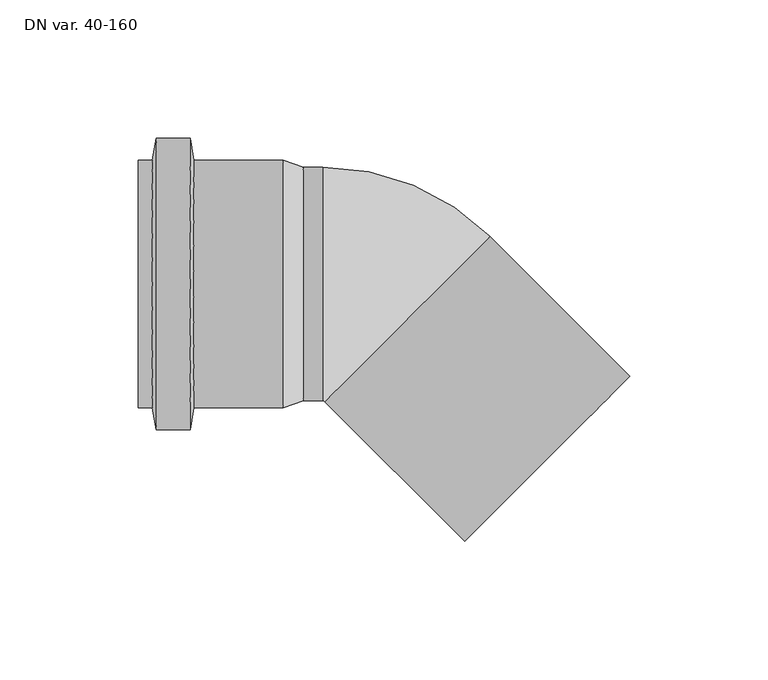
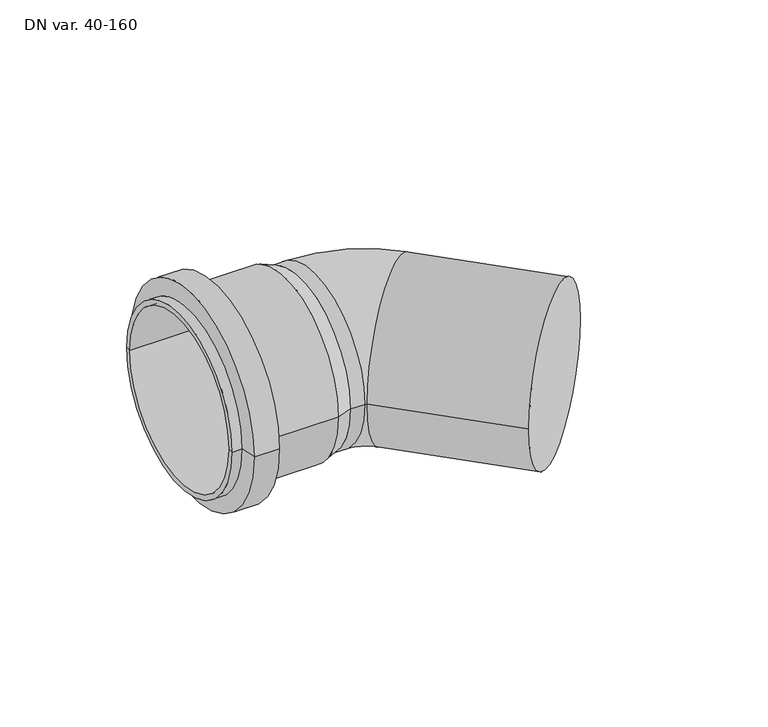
"""IFC4 building model written with IfcOpenShell, lengths in millimetres: pipe fitting geometry, PIF_Master 3+ bend-sh_Pipelife : DN var. 40-160."""

from ifc_helpers import new_model, si_unit, point, frame, origin, place, context, project, spatial, polyline, circle_curve, ellipse_curve, trimmed, source, transform, mapped, element, save
from ifc_brep_helpers import plane_surface, cylinder_surface, revolved_surface, advanced_brep


def dn_var_40_160_b9cddc0a(model_context):
    return source(origin(), model_context, "Body", "AdvancedBrep", [
        advanced_brep(
        [(-25.0, 42.2, 0.0), (-84.6, 42.2, 0.0), (-84.6, -42.2, 0.0), (-25.0, -42.2, 0.0), (-32.1434413, 44.8, 0.0), (-32.1434413, -44.8, 0.0), (-64.5, 44.8, 0.0), (-64.5, -44.8, 0.0), (-65.888575, 52.675, 0.0), (-65.888575, -52.675, 0.0), (-78.111425, 52.675, 0.0), (-78.111425, -52.675, 0.0), (-79.5, 44.8, 0.0), (-79.5, -44.8, 0.0), (-84.6, 44.8, 0.0), (-84.6, -44.8, 0.0)],
        [
            (0, 1),
            (1, 2, circle_curve(frame((-84.6, 0.0, 0.0), z_axis=(-1.0, 0.0, 0.0), x_axis=(0.0, -1.0, 0.0)), 42.2)),
            (2, 3),
            (3, 0, circle_curve(frame((-25.0, 0.0, 0.0), z_axis=(1.0, 0.0, 0.0), x_axis=(0.0, -1.0, 0.0)), 42.2)),
            (2, 1, circle_curve(frame((-84.6, 0.0, 0.0), z_axis=(-1.0, 0.0, 0.0), x_axis=(0.0, -1.0, 0.0)), 42.2)),
            (0, 3, circle_curve(frame((-25.0, 0.0, 0.0), z_axis=(1.0, 0.0, 0.0), x_axis=(0.0, -1.0, 0.0)), 42.2)),
            (4, 0),
            (3, 5),
            (5, 4, circle_curve(frame((-32.1434413, 0.0, 0.0), z_axis=(1.0, 0.0, 0.0), x_axis=(0.0, -1.0, 0.0)), 44.8)),
            (4, 5, circle_curve(frame((-32.1434413, 0.0, 0.0), z_axis=(1.0, 0.0, 0.0), x_axis=(0.0, -1.0, 0.0)), 44.8)),
            (6, 4),
            (5, 7),
            (7, 6, circle_curve(frame((-64.5, 0.0, 0.0), z_axis=(1.0, 0.0, 0.0), x_axis=(0.0, -1.0, 0.0)), 44.8)),
            (6, 7, circle_curve(frame((-64.5, 0.0, 0.0), z_axis=(1.0, 0.0, 0.0), x_axis=(0.0, -1.0, 0.0)), 44.8)),
            (8, 6),
            (7, 9),
            (9, 8, circle_curve(frame((-65.888575, 0.0, 0.0), z_axis=(1.0, 0.0, 0.0), x_axis=(0.0, -1.0, 0.0)), 52.675)),
            (8, 9, circle_curve(frame((-65.888575, 0.0, 0.0), z_axis=(1.0, 0.0, 0.0), x_axis=(0.0, -1.0, 0.0)), 52.675)),
            (10, 8),
            (9, 11),
            (11, 10, circle_curve(frame((-78.111425, 0.0, 0.0), z_axis=(1.0, 0.0, 0.0), x_axis=(0.0, -1.0, 0.0)), 52.675)),
            (10, 11, circle_curve(frame((-78.111425, 0.0, 0.0), z_axis=(1.0, 0.0, 0.0), x_axis=(0.0, -1.0, 0.0)), 52.675)),
            (12, 10),
            (11, 13),
            (13, 12, circle_curve(frame((-79.5, 0.0, 0.0), z_axis=(1.0, 0.0, 0.0), x_axis=(0.0, -1.0, 0.0)), 44.8)),
            (12, 13, circle_curve(frame((-79.5, 0.0, 0.0), z_axis=(1.0, 0.0, 0.0), x_axis=(0.0, -1.0, 0.0)), 44.8)),
            (14, 12),
            (13, 15),
            (15, 14, circle_curve(frame((-84.6, 0.0, 0.0), z_axis=(1.0, 0.0, 0.0), x_axis=(0.0, -1.0, 0.0)), 44.8)),
            (14, 15, circle_curve(frame((-84.6, 0.0, 0.0), z_axis=(1.0, 0.0, 0.0), x_axis=(0.0, -1.0, 0.0)), 44.8)),
            (1, 14),
            (15, 2),
        ],
        [
            revolved_surface(polyline([(-84.6, -42.2, 0.0), (-25.0, -42.2, 0.0)]), (-94.6, 0.0, 0.0), (-1.0, 0.0, 0.0)),
            revolved_surface(polyline([(-25.0, -42.2, 0.0), (-32.1434413, -44.8, 0.0)]), (-94.6, 0.0, 0.0), (-1.0, 0.0, 0.0)),
            cylinder_surface(frame((-94.6, 0.0, 0.0), z_axis=(-1.0, 0.0, 0.0), x_axis=(0.0, -1.0, 0.0)), 44.8),
            revolved_surface(polyline([(-64.5, -44.8, 0.0), (-65.888575, -52.675, 0.0)]), (-94.6, 0.0, 0.0), (-1.0, 0.0, 0.0)),
            cylinder_surface(frame((-94.6, 0.0, 0.0), z_axis=(-1.0, 0.0, 0.0), x_axis=(0.0, -1.0, 0.0)), 52.675),
            revolved_surface(polyline([(-78.111425, -52.675, 0.0), (-79.5, -44.8, 0.0)]), (-94.6, 0.0, 0.0), (-1.0, 0.0, 0.0)),
            plane_surface(frame((-84.6, 0.0, 0.0), z_axis=(-1.0, 0.0, 0.0), x_axis=(0.0, -1.0, 0.0))),
        ],
        [
            (0, [[1, 2, 3, 4]]),
            (0, [[-3, 5, -1, 6]]),
            (1, [[7, -4, 8, 9]]),
            (1, [[-8, -6, -7, 10]]),
            (2, [[11, -9, 12, 13]]),
            (2, [[-12, -10, -11, 14]]),
            (3, [[15, -13, 16, 17]]),
            (3, [[-16, -14, -15, 18]]),
            (4, [[19, -17, 20, 21]]),
            (4, [[-20, -18, -19, 22]]),
            (5, [[23, -21, 24, 25]]),
            (5, [[-24, -22, -23, 26]]),
            (2, [[27, -25, 28, 29]]),
            (2, [[-28, -26, -27, 30]]),
            (6, [[31, -29, 32, -2]]),
            (6, [[-32, -30, -31, -5]]),
        ],
    ),
        advanced_brep(
        [(-17.8940259, 42.2, 0.0), (-25.0, 42.2, 0.0), (-25.0, -42.2, 0.0), (-17.8940259, -42.2, 0.0), (-17.1869191, -42.4928932, 0.0), (42.4928932, 17.1869191, 0.0), (33.3754401, -93.0552524, 0.0), (63.2153462, -63.2153462, -42.2), (93.0552524, -33.3754401, 0.0), (63.2153462, -63.2153462, 42.2)],
        [
            (0, 1),
            (1, 2, circle_curve(frame((-25.0, 0.0, 0.0), z_axis=(1.0, 0.0, 0.0), x_axis=(0.0, -1.0, 0.0)), 42.2)),
            (2, 3),
            (3, 0, circle_curve(frame((-17.8940259, 0.0, 0.0), z_axis=(-1.0, 0.0, 0.0), x_axis=(0.0, -1.0, 0.0)), 42.2)),
            (2, 1, circle_curve(frame((-25.0, 0.0, 0.0), z_axis=(1.0, 0.0, 0.0), x_axis=(0.0, -1.0, 0.0)), 42.2)),
            (0, 3, circle_curve(frame((-17.8940259, 0.0, 0.0), z_axis=(-1.0, 0.0, 0.0), x_axis=(0.0, -1.0, 0.0)), 42.2)),
            (3, 4, circle_curve(frame((-17.8940259, -43.2, 0.0), z_axis=(0.0, 0.0, -1.0), x_axis=(0.0, 1.0, 0.0)), 1.0)),
            (4, 5, circle_curve(frame((12.6529871, -12.6529871, 0.0), z_axis=(-0.7071067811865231, 0.707106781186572, 0.0), x_axis=(-0.707106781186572, -0.7071067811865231, 0.0)), 42.2)),
            (5, 0, circle_curve(frame((-17.8940259, -43.2, 0.0), z_axis=(0.0, 0.0, 1.0), x_axis=(0.0, 1.0, 0.0)), 85.4)),
            (5, 4, circle_curve(frame((12.6529871, -12.6529871, 0.0), z_axis=(-0.7071067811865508, 0.7071067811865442, 0.0), x_axis=(-0.7071067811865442, -0.7071067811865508, 0.0)), 42.2)),
            (6, 7, circle_curve(frame((63.2153462, -63.2153462, 0.0), z_axis=(0.707106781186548, -0.707106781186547, 0.0), x_axis=(-0.707106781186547, -0.707106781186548, 0.0)), 42.2)),
            (7, 8, circle_curve(frame((63.2153462, -63.2153462, 0.0), z_axis=(0.707106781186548, -0.707106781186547, 0.0), x_axis=(-0.707106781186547, -0.707106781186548, 0.0)), 42.2)),
            (8, 9, circle_curve(frame((63.2153462, -63.2153462, 0.0), z_axis=(0.707106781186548, -0.707106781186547, 0.0), x_axis=(-0.707106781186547, -0.707106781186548, 0.0)), 42.2)),
            (9, 6, circle_curve(frame((63.2153462, -63.2153462, 0.0), z_axis=(0.707106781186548, -0.707106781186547, 0.0), x_axis=(-0.707106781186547, -0.707106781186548, 0.0)), 42.2)),
            (4, 6),
            (8, 5),
        ],
        [
            cylinder_surface(frame((-84.6, 0.0, 0.0), z_axis=(-1.0, 0.0, 0.0), x_axis=(0.0, -1.0, 0.0)), 42.2),
            revolved_surface(trimmed(ellipse_curve(frame((-17.8940259, 0.0, 0.0), z_axis=(1.0, 0.0, 0.0), x_axis=(0.0, -1.0, 0.0)), 42.2, 42.2), [point((-17.8940259, 42.2, 0.0))], [point((-17.8940259, -42.2, 0.0))], True, "CARTESIAN"), (-17.8940259, -43.2, 0.0), (0.0, 0.0, 1.0)),
            revolved_surface(trimmed(ellipse_curve(frame((-17.8940259, 0.0, 0.0), z_axis=(1.0, 0.0, 0.0), x_axis=(0.0, -1.0, 0.0)), 42.2, 42.2), [point((-17.8940259, -42.2, 0.0))], [point((-17.8940259, 42.2, 0.0))], True, "CARTESIAN"), (-17.8940259, -43.2, 0.0), (0.0, 0.0, 1.0)),
            plane_surface(frame((63.2153462, -63.2153462, 0.0), z_axis=(0.707106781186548, -0.707106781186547, 0.0), x_axis=(0.0, 0.0, 1.0))),
            cylinder_surface(frame((12.6529871, -12.6529871, 0.0), z_axis=(-0.707106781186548, 0.707106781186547, 0.0), x_axis=(-0.707106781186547, -0.707106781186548, 0.0)), 42.2),
            plane_surface(frame((-25.0, -42.2, 0.0), z_axis=(-1.0, 0.0, 0.0), x_axis=(0.0, 0.0, 1.0))),
        ],
        [
            (0, [[1, 2, 3, 4]]),
            (0, [[-3, 5, -1, 6]]),
            (1, [[7, 8, 9, -4]]),
            (2, [[-9, 10, -7, -6]]),
            (3, [[11, 12, 13, 14]]),
            (4, [[15, -14, -13, 16, -8]]),
            (4, [[-16, -12, -11, -15, -10]]),
            (5, [[-5, -2]]),
        ],
    ),
    ])


if __name__ == "__main__":
    model = new_model("IFC4")
    model_context = context("Model", 3, world=origin())
    ifc_project = project(units=[si_unit("LENGTHUNIT", "METRE", prefix="MILLI")], contexts=[model_context])
    site = spatial("IfcSite", under=ifc_project)
    building = spatial("IfcBuilding", under=site)
    placement = place(None, origin())
    dn_var_40_160_shape = dn_var_40_160_b9cddc0a(model_context)
    element("IfcPipeFitting", 1, ObjectType="PIF_Master 3+ bend-sh_Pipelife : DN var. 40-160", at=placement, inside=building, context=model_context, shape_type="MappedRepresentation", body=[
        mapped(dn_var_40_160_shape, transform((0.0, 0.0, 0.0), x_axis=(1.0, 0.0, 0.0), y_axis=(0.0, 1.0, 0.0), z_axis=(0.0, 0.0, 1.0))),
    ])
    save(model, "model.ifc")
